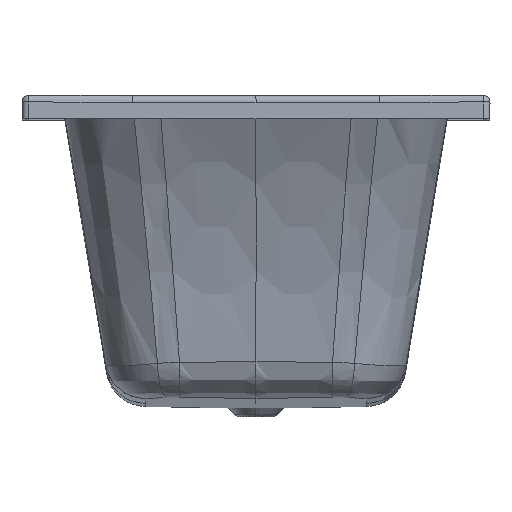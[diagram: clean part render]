
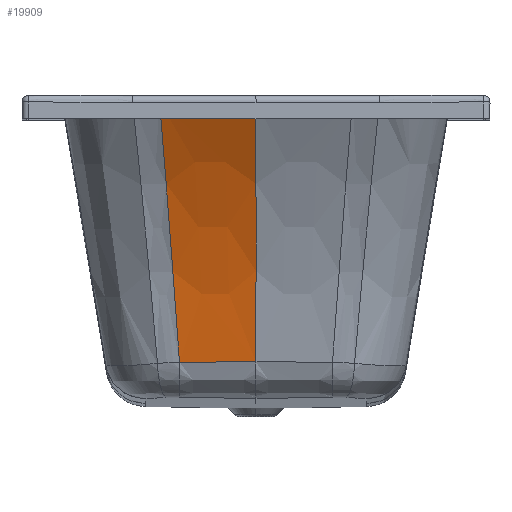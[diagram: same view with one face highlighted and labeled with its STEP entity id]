
A CAD part, top view. The second image highlights one B-rep face of the part: STEP entity #19909.
In plain terms, the highlighted free-form (B-spline) face has degree [3, 3] with [7, 4] control points.
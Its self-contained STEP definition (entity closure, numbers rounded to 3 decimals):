
#4278=CARTESIAN_POINT('',(-144.389,-8.843,
638.548));
#4279=CARTESIAN_POINT('',(-127.913,-8.843,
638.538));
#4280=CARTESIAN_POINT('',(-95.25,-8.844,
638.52));
#4281=CARTESIAN_POINT('',(-47.121,-8.845,
638.504));
#4282=CARTESIAN_POINT('',(-15.611,-8.845,
638.5));
#4283=CARTESIAN_POINT('',(0.,-8.845,638.5));
#5361=CARTESIAN_POINT('',(-114.414,-398.835,
510.82));
#5375=CARTESIAN_POINT('',(0.,-8.845,638.5));
#5376=CARTESIAN_POINT('',(0.,-38.365,620.965));
#5377=CARTESIAN_POINT('',(0.,-99.469,
589.02));
#5378=CARTESIAN_POINT('',(0.,-195.874,
551.306));
#5379=CARTESIAN_POINT('',(0.,-295.941,
524.279));
#5380=CARTESIAN_POINT('',(0.,-364.201,
513.63));
#5381=CARTESIAN_POINT('',(0.,-398.497,
510.179));
#5383=CARTESIAN_POINT('',(-114.414,-398.835,
510.82));
#5384=CARTESIAN_POINT('',(-104.32,-398.778,
510.712));
#5385=CARTESIAN_POINT('',(-84.59,-398.681,
510.526));
#5386=CARTESIAN_POINT('',(-56.951,-398.579,
510.334));
#5387=CARTESIAN_POINT('',(-29.52,-398.514,
510.212));
#5388=CARTESIAN_POINT('',(-9.972,-398.497,
510.179));
#5389=CARTESIAN_POINT('',(0.,-398.497,
510.179));
#5391=CARTESIAN_POINT('',(-114.414,-398.835,
510.82));
#5392=CARTESIAN_POINT('',(-116.895,-364.56,
514.582));
#5393=CARTESIAN_POINT('',(-121.888,-296.369,
525.671));
#5394=CARTESIAN_POINT('',(-129.385,-196.32,552.818));
#5395=CARTESIAN_POINT('',(-136.866,-99.822,
590.101));
#5396=CARTESIAN_POINT('',(-141.873,-38.507,
621.415));
#5397=CARTESIAN_POINT('',(-144.389,-8.843,
638.548));
#7014=CARTESIAN_POINT('',(-144.389,-8.843,
638.548));
#7016=VERTEX_POINT('',#7014);
#7139=VERTEX_POINT('',#5375);
#7140=VERTEX_POINT('',#5381);
#7180=VERTEX_POINT('',#5361);
#19872=CARTESIAN_POINT('',(-146.143,-5.22,
640.65));
#19873=CARTESIAN_POINT('',(-96.946,-5.265,
640.633));
#19874=CARTESIAN_POINT('',(-47.75,-5.29,
640.623));
#19875=CARTESIAN_POINT('',(1.447,-5.289,
640.623));
#19876=CARTESIAN_POINT('',(-143.497,-36.02,
622.698));
#19877=CARTESIAN_POINT('',(-95.19,-35.953,
622.41));
#19878=CARTESIAN_POINT('',(-46.884,-35.915,
622.246));
#19879=CARTESIAN_POINT('',(1.421,-35.916,
622.249));
#19880=CARTESIAN_POINT('',(-138.336,-98.523,
590.626));
#19881=CARTESIAN_POINT('',(-91.767,-98.304,
589.918));
#19882=CARTESIAN_POINT('',(-45.199,-98.18,
589.515));
#19883=CARTESIAN_POINT('',(1.37,-98.182,
589.523));
#19884=CARTESIAN_POINT('',(-130.679,-196.328,
552.847));
#19885=CARTESIAN_POINT('',(-86.691,-196.036,
551.857));
#19886=CARTESIAN_POINT('',(-42.701,-195.871,
551.295));
#19887=CARTESIAN_POINT('',(1.294,-195.874,
551.306));
#19888=CARTESIAN_POINT('',(-123.006,-297.709,
525.336));
#19889=CARTESIAN_POINT('',(-81.6,-297.458,
524.417));
#19890=CARTESIAN_POINT('',(-40.193,-297.316,
523.897));
#19891=CARTESIAN_POINT('',(1.218,-297.319,
523.907));
#19892=CARTESIAN_POINT('',(-117.863,-367.29,
514.159));
#19893=CARTESIAN_POINT('',(-78.185,-367.118,
513.538));
#19894=CARTESIAN_POINT('',(-38.509,-367.021,
513.186));
#19895=CARTESIAN_POINT('',(1.167,-367.023,
513.193));
#19896=CARTESIAN_POINT('',(-115.258,-402.949,
510.389));
#19897=CARTESIAN_POINT('',(-76.457,-402.822,
509.985));
#19898=CARTESIAN_POINT('',(-37.658,-402.751,
509.757));
#19899=CARTESIAN_POINT('',(1.141,-402.752,
509.761));
#19900=B_SPLINE_SURFACE_WITH_KNOTS('',3,3,((#19872,#19873,#19874,#19875),
(#19876,#19877,#19878,#19879),(#19880,#19881,#19882,#19883),(#19884,#19885,
#19886,#19887),(#19888,#19889,#19890,#19891),(#19892,#19893,#19894,#19895),(
#19896,#19897,#19898,#19899)),.UNSPECIFIED.,.F.,.F.,.F.,(4,1,1,1,4),(4,4),(
-0.002,0.222,0.438,0.655,
0.88),(0.833,1.002),.UNSPECIFIED.);
#19902=ORIENTED_EDGE('',*,*,#19901,.T.);
#19904=ORIENTED_EDGE('',*,*,#19903,.F.);
#19905=ORIENTED_EDGE('',*,*,#19867,.T.);
#19906=ORIENTED_EDGE('',*,*,#17170,.T.);
#19907=EDGE_LOOP('',(#19902,#19904,#19905,#19906));
#19908=FACE_OUTER_BOUND('',#19907,.F.);
#19909=ADVANCED_FACE('',(#19908),#19900,.T.);
#4284=B_SPLINE_CURVE_WITH_KNOTS('',3,(#4278,#4279,#4280,#4281,#4282,#4283),
.UNSPECIFIED.,.F.,.F.,(4,1,1,4),(0.,0.333,0.667,1.),
.UNSPECIFIED.);
#5382=B_SPLINE_CURVE_WITH_KNOTS('',3,(#5375,#5376,#5377,#5378,#5379,#5380,
#5381),.UNSPECIFIED.,.F.,.F.,(4,1,1,1,4),(0.,0.249,
0.5,0.75,1.),.UNSPECIFIED.);
#5390=B_SPLINE_CURVE_WITH_KNOTS('',3,(#5383,#5384,#5385,#5386,#5387,#5388,
#5389),.UNSPECIFIED.,.F.,.F.,(4,1,1,1,4),(0.,0.25,0.5,0.75,1.),
.UNSPECIFIED.);
#5398=B_SPLINE_CURVE_WITH_KNOTS('',3,(#5391,#5392,#5393,#5394,#5395,#5396,
#5397),.UNSPECIFIED.,.F.,.F.,(4,1,1,1,4),(0.,0.25,
0.501,0.751,1.),.UNSPECIFIED.);
#17170=EDGE_CURVE('',#7016,#7139,#4284,.T.);
#19867=EDGE_CURVE('',#7180,#7016,#5398,.T.);
#19901=EDGE_CURVE('',#7139,#7140,#5382,.T.);
#19903=EDGE_CURVE('',#7180,#7140,#5390,.T.);
